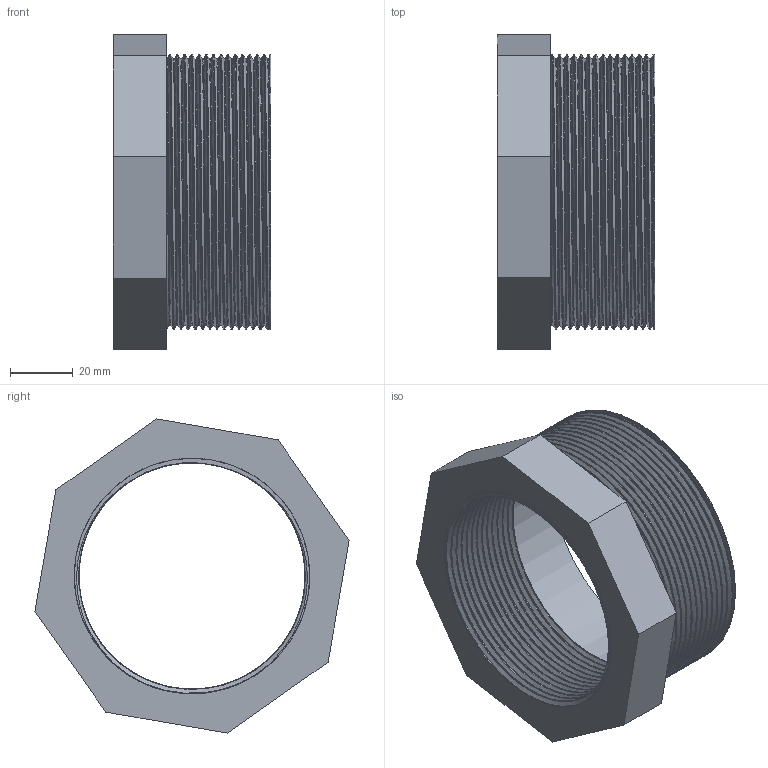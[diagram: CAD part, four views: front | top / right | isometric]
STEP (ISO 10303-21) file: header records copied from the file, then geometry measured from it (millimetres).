
FILE_DESCRIPTION(/* description */ (''),/* implementation_level */ '2;1');
FILE_NAME(/* name */ 'C:\Users\Gabriele\Desktop\disegni 3D\RB91\RB91090H.ipt.stp',/* time_stamp */ '2017-01-24T18:32:11+01:00',/* author */ ('Eugenio'),/* organization */ (''),/* preprocessor_version */ 'ST-DEVELOPER v16.5',/* originating_system */ 'Autodesk Inventor 2017',/* authorisation */ '');
FILE_SCHEMA (('AUTOMOTIVE_DESIGN { 1 0 10303 214 3 1 1 }'));
Length unit declared in the file: millimetre
Products named in the file (1): RB91090H
Bounding box: 50.3 x 100.32 x 100.32 mm (x, y, z)
Volume: 99532.3 mm3; surface area: 76829.6 mm2
Topology: 3 solids, 3 shells, 37 faces, 84 edges, 56 vertices
Faces by surface type: plane 17, bspline 12, cylinder 7, torus 1
Full cylindrical faces by diameter (mm): 75.18 x2, 77.18 x1, 84.866 x2
Entity records: 13520 total; most frequent: CARTESIAN_POINT 12766, ORIENTED_EDGE 156, DIRECTION 108, EDGE_CURVE 78, VERTEX_POINT 56, EDGE_LOOP 52, AXIS2_PLACEMENT_3D 42, B_SPLINE_CURVE_WITH_KNOTS 38
